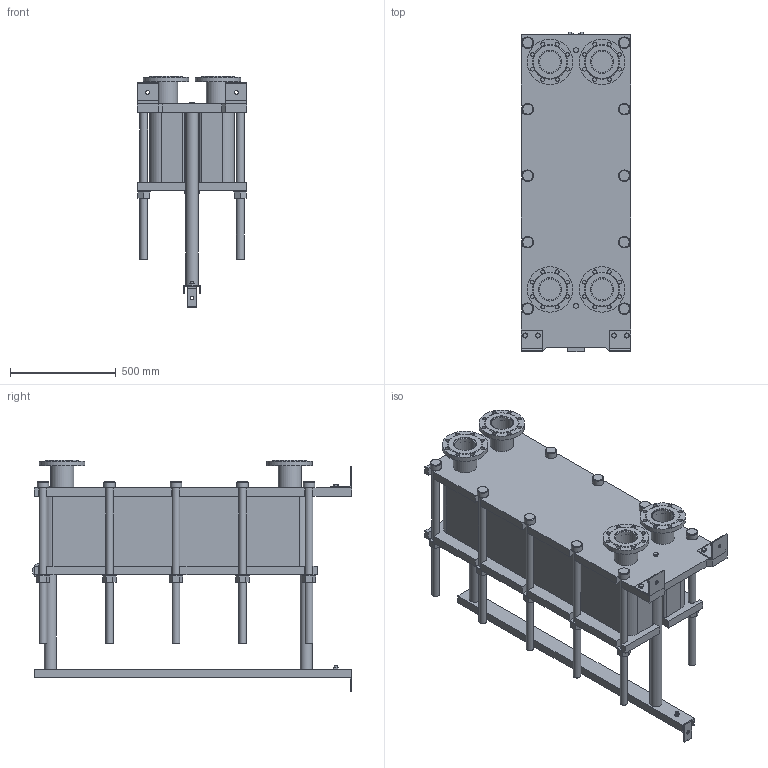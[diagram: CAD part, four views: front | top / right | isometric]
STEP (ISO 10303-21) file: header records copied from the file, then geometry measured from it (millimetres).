
FILE_DESCRIPTION(/* description */ (''),/* implementation_level */ '2;1');
FILE_NAME(/* name */ 'C:\Users\zhuro\Desktop\ENCO\TO\ЭН-04\ЭН-0,5-04-96-1.stp',/* time_stamp */ '2022-06-06T10:53:31+03:00',/* author */ ('zhuro'),/* organization */ (''),/* preprocessor_version */ 'ST-DEVELOPER v18.1',/* originating_system */ 'Autodesk Inventor 2022',/* authorisation */ '');
FILE_SCHEMA (('AUTOMOTIVE_DESIGN { 1 0 10303 214 3 1 1 }'));
Length unit declared in the file: millimetre
Products named in the file (1): ЭН-0,5-04-96-1
Bounding box: 520 x 1510 x 1093 mm (x, y, z)
Volume: 236509732.2 mm3; surface area: 8267301.6 mm2
Topology: 45 solids, 45 shells, 668 faces, 1611 edges, 1048 vertices
Faces by surface type: plane 457, cylinder 166, cone 39, torus 6
Full cylindrical faces by diameter (mm): 8 x4, 10 x2, 16 x8, 18 x35, 36 x25, 40 x2, 42 x1, 45 x4, 54 x10, 57 x2, 60 x10, 68 x2, 100 x4, 110 x8, 215 x4
Entity records: 23607 total; most frequent: CARTESIAN_POINT 7348, DIRECTION 3371, ORIENTED_EDGE 3142, EDGE_CURVE 1571, AXIS2_PLACEMENT_3D 1199, VERTEX_POINT 1044, LINE 973, VECTOR 973
